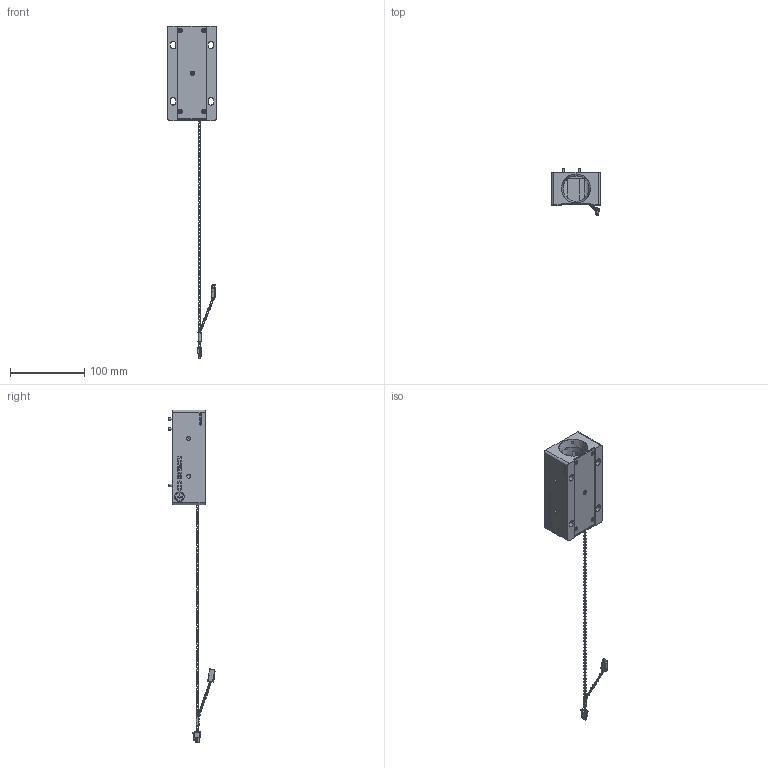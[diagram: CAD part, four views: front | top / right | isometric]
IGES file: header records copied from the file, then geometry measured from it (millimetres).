
Start section: SolidWorks IGES file using analytic representation for surfaces
Global section: file name: C:\Users\lewisd\Desktop\1073840rAM.IGS; native system: SolidWorks 2011; preprocessor: SolidWorks 2011; author: lewisd; date: 110321.073057; units: inch
Bounding box: 66.05 x 63.22 x 445.75 mm (x, y, z)
Surface area: 77095.6 mm2 (no closed solid volume)
Topology: 0 solids, 0 shells, 1354 faces, 14908 edges, 14868 vertices
Faces by surface type: bspline 983, revolution 371
